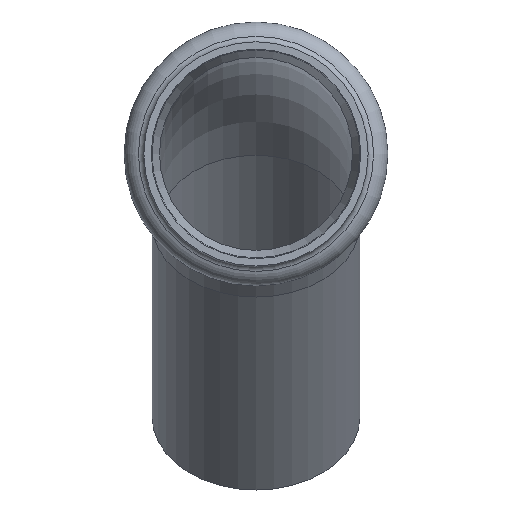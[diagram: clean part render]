
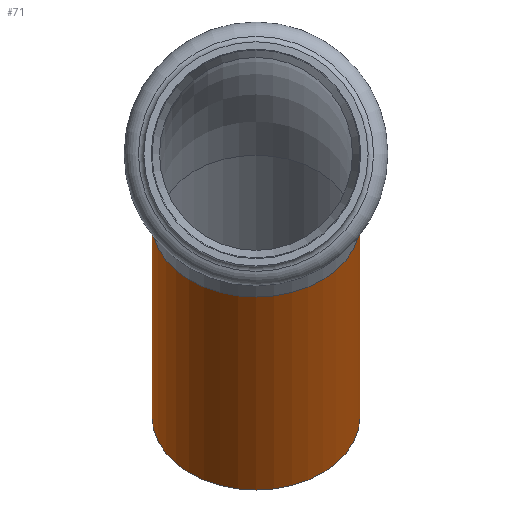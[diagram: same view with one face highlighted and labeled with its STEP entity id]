
A CAD part, front view. The second image highlights one B-rep face of the part: STEP entity #71.
In plain terms, the highlighted cylindrical face has radius 21 mm (diameter 42 mm), a full revolution.
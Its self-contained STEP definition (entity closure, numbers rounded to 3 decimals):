
#71=ADVANCED_FACE('',(#236,#238),#240,.T.);
#236=FACE_OUTER_BOUND('',#237,.T.);
#237=EDGE_LOOP('',(#305));
#238=FACE_OUTER_BOUND('',#239,.T.);
#239=EDGE_LOOP('',(#306));
#240=CYLINDRICAL_SURFACE('',#241,21.);
#241=AXIS2_PLACEMENT_3D('',#242,#243,#244);
#242=CARTESIAN_POINT('',(0.,79.059,-14.059));
#243=DIRECTION('',(0.,0.707,-0.707));
#244=DIRECTION('',(-1.,0.,0.));
#305=ORIENTED_EDGE('',*,*,#333,.F.);
#306=ORIENTED_EDGE('',*,*,#335,.T.);
#333=EDGE_CURVE('',#378,#378,#379,.T.);
#335=EDGE_CURVE('',#382,#382,#383,.T.);
#378=VERTEX_POINT('',#488);
#379=CIRCLE('',#489,21.);
#382=VERTEX_POINT('',#498);
#383=CIRCLE('',#499,21.);
#488=CARTESIAN_POINT('',(-21.,118.033,-53.033));
#489=AXIS2_PLACEMENT_3D('',#490,#491,#492);
#490=CARTESIAN_POINT('',(0.,118.033,-53.033));
#491=DIRECTION('',(0.,0.707,-0.707));
#492=DIRECTION('',(-1.,0.,0.));
#498=CARTESIAN_POINT('',(-21.,79.059,-14.059));
#499=AXIS2_PLACEMENT_3D('',#500,#501,#502);
#500=CARTESIAN_POINT('',(0.,79.059,-14.059));
#501=DIRECTION('',(0.,0.707,-0.707));
#502=DIRECTION('',(-1.,0.,0.));
